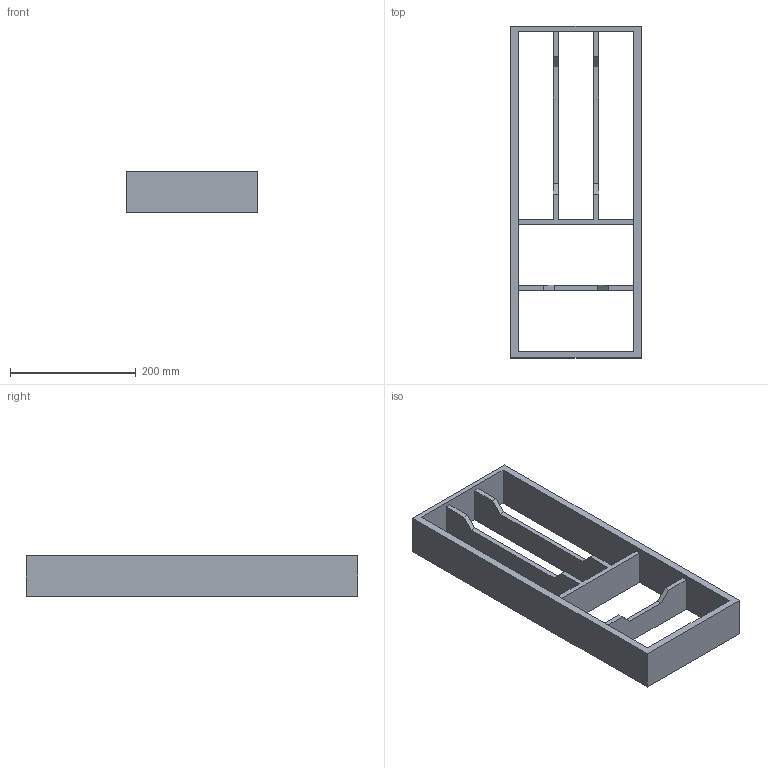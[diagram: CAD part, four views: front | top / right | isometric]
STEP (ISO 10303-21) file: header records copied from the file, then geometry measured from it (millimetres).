
FILE_DESCRIPTION (( 'STEP AP214' ), '1' );
FILE_NAME ('Vario Besteck fix NL550_B300_16mm_Buche.step', '2010-11-08T07:33:19', ( 'grass' ), ( '' ), 'SwSTEP 2.0', 'SolidWorks 2010', '' );
FILE_SCHEMA (( 'AUTOMOTIVE_DESIGN' ));
Length unit declared in the file: millimetre
Products named in the file (1): Vario Besteck fix NL550_B300_16mm_Buche
Bounding box: 208 x 529 x 65 mm (x, y, z)
Volume: 1426840 mm3; surface area: 324182 mm2
Topology: 1 solids, 1 shells, 34 faces, 108 edges, 72 vertices
Faces by surface type: plane 34
Entity records: 1226 total; most frequent: ORIENTED_EDGE 216, CARTESIAN_POINT 215, DIRECTION 178, VECTOR 108, LINE 108, EDGE_CURVE 108, VERTEX_POINT 72, EDGE_LOOP 40
